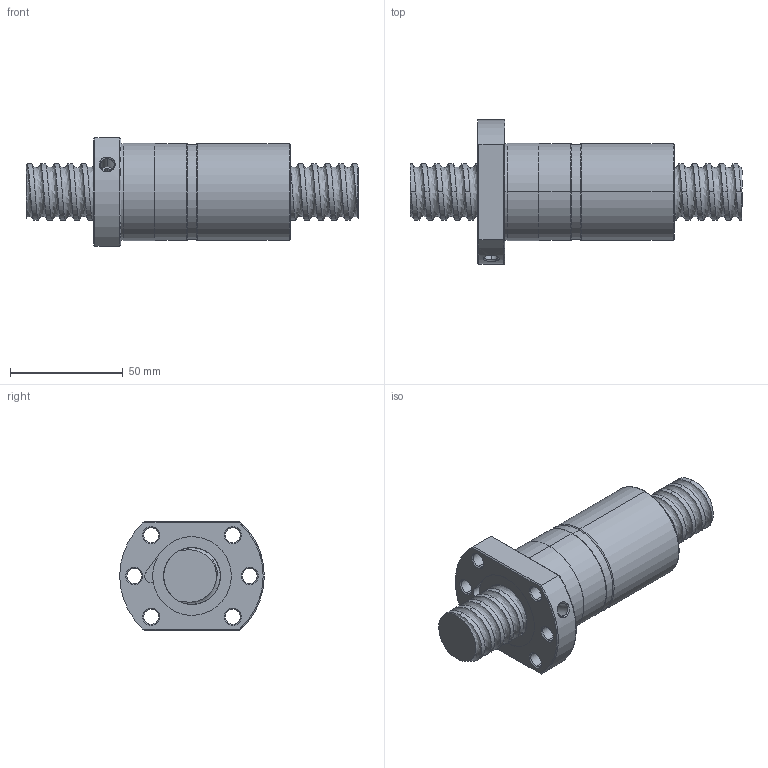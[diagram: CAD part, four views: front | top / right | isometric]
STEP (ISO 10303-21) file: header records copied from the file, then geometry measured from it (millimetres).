
FILE_DESCRIPTION (( 'STEP AP214' ), '1' );
FILE_NAME ('FDDC02506T4-C-C.STEP', '2010-07-07T02:38:54', ( 'XPAUTO' ), ( 'XPAUTO' ), 'SwSTEP 2.0', 'SolidWorks 2007', '' );
FILE_SCHEMA (( 'AUTOMOTIVE_DESIGN' ));
Length unit declared in the file: millimetre
Products named in the file (3): FDDC02506T4-C-C.sldasm-Part-2_預設; FDDC02506T4-C-C; FDDC02506T4-C-C.sldasm-Part-1_預設
Assembly tree (2 placements, depth 2):
  FDDC02506T4-C-C
    FDDC02506T4-C-C.sldasm-Part-2_預設
    FDDC02506T4-C-C.sldasm-Part-1_預設
Bounding box: 147 x 64 x 48 mm (x, y, z)
Volume: 157920.9 mm3; surface area: 40392 mm2
Topology: 2 solids, 2 shells, 152 faces, 386 edges, 243 vertices
Faces by surface type: cylinder 92, cone 24, plane 23, torus 8, bspline 5
Entity records: 31583 total; most frequent: CARTESIAN_POINT 27989, ORIENTED_EDGE 772, DIRECTION 678, EDGE_CURVE 386, AXIS2_PLACEMENT_3D 272, VERTEX_POINT 243, EDGE_LOOP 173, FACE_OUTER_BOUND 152
